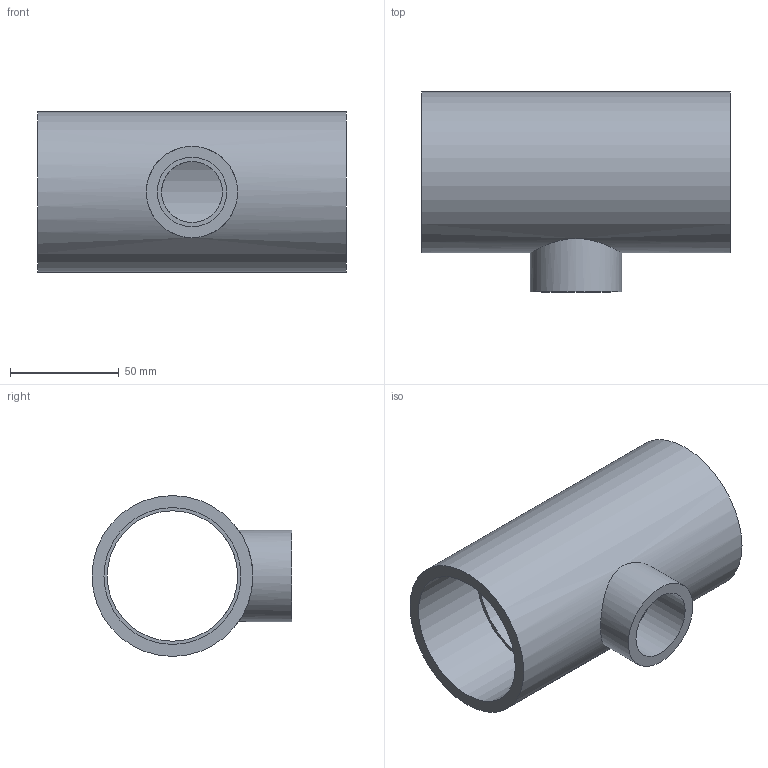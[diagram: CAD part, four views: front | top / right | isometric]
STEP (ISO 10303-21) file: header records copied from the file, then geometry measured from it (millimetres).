
FILE_DESCRIPTION(/* description */ ('PVC ti a 90° ridotto incollaggio metrico'),/* implementation_level */ '2;1');
FILE_NAME(/* name */ 'C:\Users\POLYPIPE\Desktop\DATASET INVENTOR\LIBRERIA EFFAST\RACCORDI 3DxWEB\RDR\3D_RDRTRD\3D_RDRTRD063D.stp',/* time_stamp */ '2018-01-19T15:47:33+01:00',/* author */ ('POLYPIPE'),/* organization */ ('Polypipe Italia s.r.l.'),/* preprocessor_version */ 'ST-DEVELOPER v16.1',/* originating_system */ 'Autodesk Inventor 2016',/* authorisation */ '');
FILE_SCHEMA (('CONFIG_CONTROL_DESIGN'));
Length unit declared in the file: millimetre
Products named in the file (1): 3D_RDRTRD
Bounding box: 142 x 92 x 74 mm (x, y, z)
Volume: 194274.6 mm3; surface area: 67556.8 mm2
Topology: 1 solids, 1 shells, 13 faces, 23 edges, 16 vertices
Faces by surface type: cylinder 7, plane 6
Full cylindrical faces by diameter (mm): 28 x1, 32 x1, 42 x1, 60 x1, 63 x2, 74 x1
Entity records: 414 total; most frequent: CARTESIAN_POINT 156, DIRECTION 52, EDGE_LOOP 28, ORIENTED_EDGE 28, AXIS2_PLACEMENT_3D 26, FACE_BOUND 15, VERTEX_POINT 14, EDGE_CURVE 14
